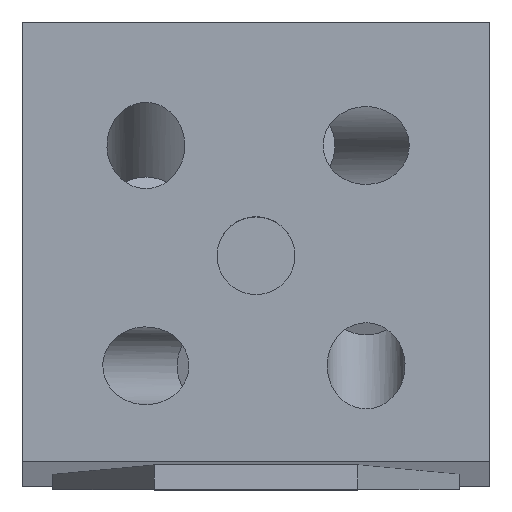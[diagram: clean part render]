
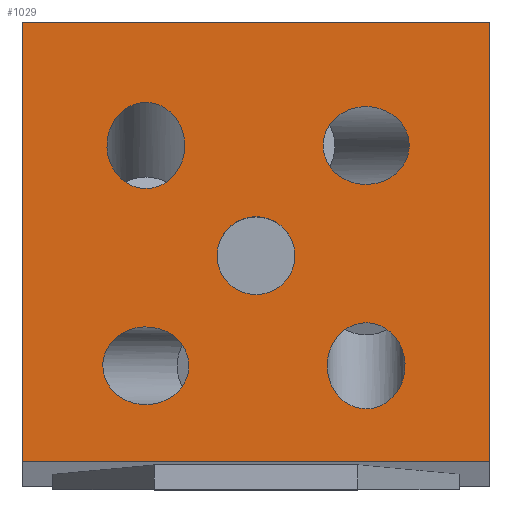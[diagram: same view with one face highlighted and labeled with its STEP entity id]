
A CAD part, top view. The second image highlights one B-rep face of the part: STEP entity #1029.
In plain terms, the highlighted planar face has unit normal (0, 0, 1).
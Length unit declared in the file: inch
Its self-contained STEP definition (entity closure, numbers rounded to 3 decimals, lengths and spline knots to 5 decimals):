
#799=CARTESIAN_POINT('',(0.75,0.75,1.9));
#800=VERTEX_POINT('',#799);
#801=CARTESIAN_POINT('',(0.75,-0.66015,1.9));
#802=VERTEX_POINT('',#801);
#803=CARTESIAN_POINT('',(0.75,0.0,1.9));
#804=DIRECTION('',(0.0,-1.0,0.0));
#805=VECTOR('',#804,1.0);
#806=LINE('',#803,#805);
#807=EDGE_CURVE('',#800,#802,#806,.T.);
#904=CARTESIAN_POINT('',(0.0,0.0,1.9));
#905=DIRECTION('',(0.0,0.0,1.0));
#906=DIRECTION('',(1.0,0.0,0.0));
#907=AXIS2_PLACEMENT_3D('',#904,#905,#906);
#908=PLANE('',#907);
#909=CARTESIAN_POINT('',(-0.75,-0.66015,1.9));
#910=VERTEX_POINT('',#909);
#911=CARTESIAN_POINT('',(-0.75,0.75,1.9));
#912=VERTEX_POINT('',#911);
#913=CARTESIAN_POINT('',(-0.75,0.0,1.9));
#914=DIRECTION('',(0.0,1.0,0.0));
#915=VECTOR('',#914,1.0);
#916=LINE('',#913,#915);
#917=EDGE_CURVE('',#910,#912,#916,.T.);
#918=ORIENTED_EDGE('',*,*,#917,.F.);
#919=CARTESIAN_POINT('',(0.0,-0.66015,1.9));
#920=DIRECTION('',(1.0,0.0,0.0));
#921=VECTOR('',#920,1.);
#922=LINE('',#919,#921);
#923=EDGE_CURVE('',#910,#802,#922,.T.);
#924=ORIENTED_EDGE('',*,*,#923,.T.);
#925=ORIENTED_EDGE('',*,*,#807,.F.);
#926=CARTESIAN_POINT('',(0.0,0.75,1.9));
#927=DIRECTION('',(1.0,0.0,0.0));
#928=VECTOR('',#927,1.0);
#929=LINE('',#926,#928);
#930=EDGE_CURVE('',#912,#800,#929,.T.);
#931=ORIENTED_EDGE('',*,*,#930,.F.);
#932=EDGE_LOOP('',(#918,#924,#925,#931));
#933=FACE_OUTER_BOUND('',#932,.T.);
#934=CARTESIAN_POINT('',(0.21536,0.35355,1.9));
#935=VERTEX_POINT('',#934);
#936=CARTESIAN_POINT('',(0.21536,0.35355,1.9));
#937=CARTESIAN_POINT('',(0.21536,0.10355,1.9));
#938=CARTESIAN_POINT('',(0.49175,0.10355,1.9));
#939=CARTESIAN_POINT('',(0.49175,0.35355,1.9));
#940=CARTESIAN_POINT('',(0.49175,0.60355,1.9));
#941=CARTESIAN_POINT('',(0.21536,0.60355,1.9));
#942=CARTESIAN_POINT('',(0.21536,0.35355,1.9));
#950=(BOUNDED_CURVE()B_SPLINE_CURVE(3,(#936,#937,#938,#939,#940,#941,#942),.UNSPECIFIED.,.T.,.U.)B_SPLINE_CURVE_WITH_KNOTS((4,3,4),(0.0,0.5,1.0),.UNSPECIFIED.)CURVE()GEOMETRIC_REPRESENTATION_ITEM()RATIONAL_B_SPLINE_CURVE((1.0,0.333,0.333,1.0,0.333,0.333,1.0))REPRESENTATION_ITEM(''));
#951=EDGE_CURVE('',#935,#935,#950,.F.);
#952=ORIENTED_EDGE('',*,*,#951,.T.);
#953=EDGE_LOOP('',(#952));
#954=FACE_BOUND('',#953,.T.);
#955=CARTESIAN_POINT('',(-0.35355,0.49175,1.9));
#956=VERTEX_POINT('',#955);
#957=CARTESIAN_POINT('',(-0.35355,0.49175,1.9));
#958=CARTESIAN_POINT('',(-0.60355,0.49175,1.9));
#959=CARTESIAN_POINT('',(-0.60355,0.21536,1.9));
#960=CARTESIAN_POINT('',(-0.35355,0.21536,1.9));
#961=CARTESIAN_POINT('',(-0.10355,0.21536,1.9));
#962=CARTESIAN_POINT('',(-0.10355,0.49175,1.9));
#963=CARTESIAN_POINT('',(-0.35355,0.49175,1.9));
#971=(BOUNDED_CURVE()B_SPLINE_CURVE(3,(#957,#958,#959,#960,#961,#962,#963),.UNSPECIFIED.,.T.,.U.)B_SPLINE_CURVE_WITH_KNOTS((4,3,4),(0.0,0.5,1.0),.UNSPECIFIED.)CURVE()GEOMETRIC_REPRESENTATION_ITEM()RATIONAL_B_SPLINE_CURVE((1.0,0.333,0.333,1.0,0.333,0.333,1.0))REPRESENTATION_ITEM(''));
#972=EDGE_CURVE('',#956,#956,#971,.T.);
#973=ORIENTED_EDGE('',*,*,#972,.F.);
#974=EDGE_LOOP('',(#973));
#975=FACE_BOUND('',#974,.T.);
#976=CARTESIAN_POINT('',(-0.49175,-0.35355,1.9));
#977=VERTEX_POINT('',#976);
#978=CARTESIAN_POINT('',(-0.49175,-0.35355,1.9));
#979=CARTESIAN_POINT('',(-0.49175,-0.60355,1.9));
#980=CARTESIAN_POINT('',(-0.21536,-0.60355,1.9));
#981=CARTESIAN_POINT('',(-0.21536,-0.35355,1.9));
#982=CARTESIAN_POINT('',(-0.21536,-0.10355,1.9));
#983=CARTESIAN_POINT('',(-0.49175,-0.10355,1.9));
#984=CARTESIAN_POINT('',(-0.49175,-0.35355,1.9));
#992=(BOUNDED_CURVE()B_SPLINE_CURVE(3,(#978,#979,#980,#981,#982,#983,#984),.UNSPECIFIED.,.T.,.U.)B_SPLINE_CURVE_WITH_KNOTS((4,3,4),(0.0,0.5,1.0),.UNSPECIFIED.)CURVE()GEOMETRIC_REPRESENTATION_ITEM()RATIONAL_B_SPLINE_CURVE((1.0,0.333,0.333,1.0,0.333,0.333,1.0))REPRESENTATION_ITEM(''));
#993=EDGE_CURVE('',#977,#977,#992,.T.);
#994=ORIENTED_EDGE('',*,*,#993,.F.);
#995=EDGE_LOOP('',(#994));
#996=FACE_BOUND('',#995,.T.);
#997=CARTESIAN_POINT('',(0.125,0.,1.9));
#998=VERTEX_POINT('',#997);
#999=CARTESIAN_POINT('',(0.,0.,1.9));
#1000=DIRECTION('',(0.0,0.0,1.0));
#1001=DIRECTION('',(1.0,0.0,0.0));
#1002=AXIS2_PLACEMENT_3D('',#999,#1000,#1001);
#1003=CIRCLE('',#1002,0.125);
#1004=EDGE_CURVE('',#998,#998,#1003,.F.);
#1005=ORIENTED_EDGE('',*,*,#1004,.T.);
#1006=EDGE_LOOP('',(#1005));
#1007=FACE_BOUND('',#1006,.T.);
#1008=CARTESIAN_POINT('',(0.35355,-0.21536,1.9));
#1009=VERTEX_POINT('',#1008);
#1010=CARTESIAN_POINT('',(0.35355,-0.21536,1.9));
#1011=CARTESIAN_POINT('',(0.10355,-0.21536,1.9));
#1012=CARTESIAN_POINT('',(0.10355,-0.49175,1.9));
#1013=CARTESIAN_POINT('',(0.35355,-0.49175,1.9));
#1014=CARTESIAN_POINT('',(0.60355,-0.49175,1.9));
#1015=CARTESIAN_POINT('',(0.60355,-0.21536,1.9));
#1016=CARTESIAN_POINT('',(0.35355,-0.21536,1.9));
#1024=(BOUNDED_CURVE()B_SPLINE_CURVE(3,(#1010,#1011,#1012,#1013,#1014,#1015,#1016),.UNSPECIFIED.,.T.,.U.)B_SPLINE_CURVE_WITH_KNOTS((4,3,4),(0.0,0.5,1.0),.UNSPECIFIED.)CURVE()GEOMETRIC_REPRESENTATION_ITEM()RATIONAL_B_SPLINE_CURVE((1.0,0.333,0.333,1.0,0.333,0.333,1.0))REPRESENTATION_ITEM(''));
#1025=EDGE_CURVE('',#1009,#1009,#1024,.F.);
#1026=ORIENTED_EDGE('',*,*,#1025,.T.);
#1027=EDGE_LOOP('',(#1026));
#1028=FACE_BOUND('',#1027,.T.);
#1029=ADVANCED_FACE('',(#933,#954,#975,#996,#1007,#1028),#908,.T.);
